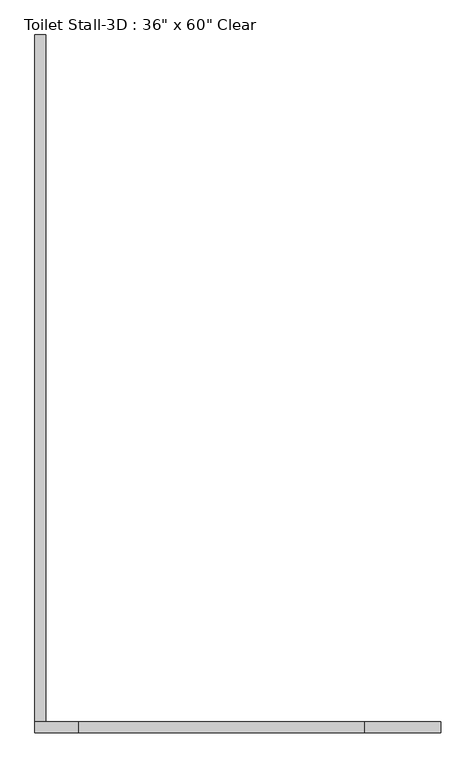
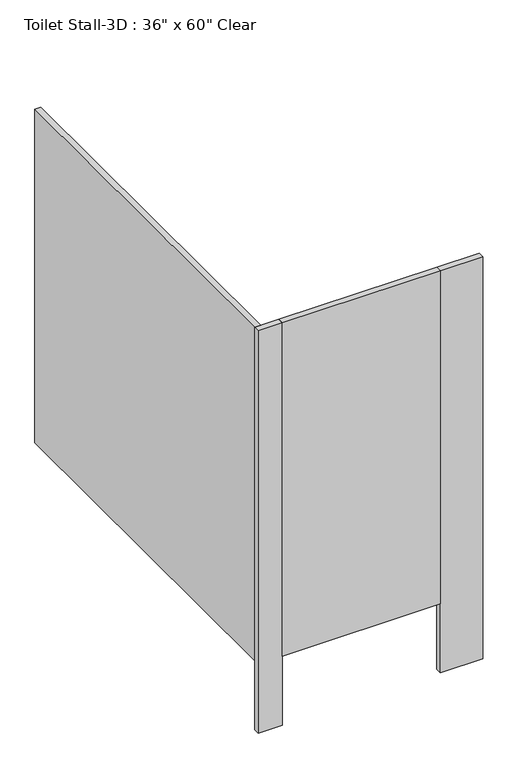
"""IFC4 building model written with IfcOpenShell, lengths in millimetres: proxy geometry."""

from ifc_helpers import new_model, si_unit, frame, origin, origin_with_axes, place, context, project, spatial, polyline, outline, extrude, source, transform, mapped, element, save


def proxy_7c43ef90(model_context):
    return source(origin(), model_context, "Body", "SweptSolid", [
        extrude(outline(polyline([(684.3031538, -1679.575), (23.9031538, -1679.575), (23.9031538, -1654.175), (684.3031538, -1654.175), (684.3031538, -1679.575)])), frame((0.0, 0.0, 304.8), z_axis=(0.0, 0.0, 1.0), x_axis=(1.0, 0.0, 0.0)), (0.0, 0.0, 1.0), 1473.2),
        extrude(outline(polyline([(23.9031538, -1679.575), (-77.6968462, -1679.575), (-77.6968462, -1654.175), (23.9031538, -1654.175), (23.9031538, -1679.575)])), origin_with_axes(), (0.0, 0.0, 1.0), 1778.0),
        extrude(outline(polyline([(862.1031538, -1679.575), (684.3031538, -1679.575), (684.3031538, -1654.175), (862.1031538, -1654.175), (862.1031538, -1679.575)])), origin_with_axes(), (0.0, 0.0, 1.0), 1778.0),
        extrude(outline(polyline([(-77.6968462, -1654.175), (-77.6968462, -63.5), (-52.2968462, -63.5), (-52.2968462, -1654.175), (-77.6968462, -1654.175)])), frame((0.0, 0.0, 304.8), z_axis=(0.0, 0.0, 1.0), x_axis=(1.0, 0.0, 0.0)), (0.0, 0.0, 1.0), 1473.2),
    ])


if __name__ == "__main__":
    model = new_model("IFC4")
    model_context = context("Model", 3, world=origin())
    ifc_project = project(units=[si_unit("LENGTHUNIT", "METRE", prefix="MILLI")], contexts=[model_context])
    site = spatial("IfcSite", under=ifc_project)
    building = spatial("IfcBuilding", under=site)
    placement = place(None, origin())
    proxy_shape = proxy_7c43ef90(model_context)
    element("IfcBuildingElementProxy", 1, Name="Toilet Stall-3D : 36\" x 60\" Clear", ObjectType="Toilet Stall-3D : 36\" x 60\" Clear", at=placement, inside=building, context=model_context, shape_type="MappedRepresentation", body=[
        mapped(proxy_shape, transform((0.0, 0.0, 0.0), x_axis=(1.0, 0.0, 0.0), y_axis=(0.0, 1.0, 0.0), z_axis=(0.0, 0.0, 1.0))),
    ])
    save(model, "model.ifc")
